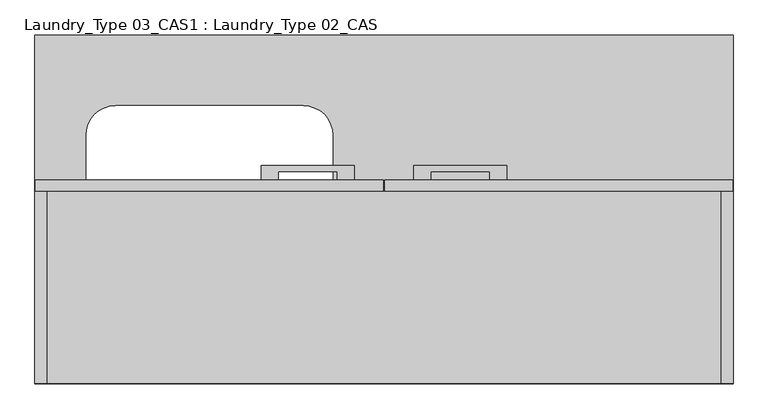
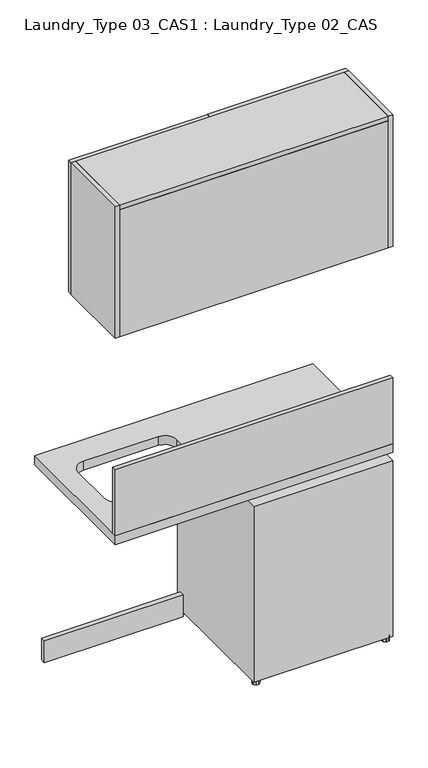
"""IFC4 building model written with IfcOpenShell, lengths in millimetres: furniture geometry, Laundry_Type 03_CAS1 : Laundry_Type 02_CAS."""

from ifc_helpers import new_model, si_unit, point, frame, frame_2d, origin, origin_with_axes, place, context, project, spatial, polyline, circle_curve, ellipse_curve, trimmed, segment, composite_curve, outline, extrude, source, transform, mapped, element, save
from ifc_brep_helpers import plane_surface, revolved_surface, advanced_brep


def laundry_type_03_cas1_laundry_type_02_cas_007b385b(model_context):
    return source(origin(), model_context, "Body", "SolidModel", [
        extrude(outline(composite_curve([segment(polyline([(1971.5385186, -26.7031653), (1973.2750278, -25.7005913)]), True, "CONTINUOUS"), segment(trimmed(circle_curve(frame_2d((1985.0, -20.085876)), 13.0), [point((1973.2750278, -25.7005913))], [point((1972.7389894, -24.40648))], False, "CARTESIAN"), True, "CONTINUOUS"), segment(polyline([(1972.7389894, -24.40648), (1970.802165, -24.9254506)]), True, "CONTINUOUS"), segment(trimmed(circle_curve(frame_2d((1985.0, -20.085876)), 15.0), [point((1970.802165, -24.9254506))], [point((1970.802165, -15.2463014))], False, "CARTESIAN"), True, "CONTINUOUS"), segment(polyline([(1970.802165, -15.2463014), (1972.7389894, -15.7652719)]), True, "CONTINUOUS"), segment(trimmed(circle_curve(frame_2d((1985.0, -20.085876)), 13.0), [point((1972.7389894, -15.7652719))], [point((1973.2750278, -14.4711607))], False, "CARTESIAN"), True, "CONTINUOUS"), segment(polyline([(1973.2750278, -14.4711607), (1971.5385186, -13.4685866)]), True, "CONTINUOUS"), segment(trimmed(circle_curve(frame_2d((1985.0, -20.085876)), 15.0), [point((1971.5385186, -13.4685866))], [point((1978.3827106, -6.6243946))], False, "CARTESIAN"), True, "CONTINUOUS"), segment(polyline([(1978.3827106, -6.6243946), (1979.3852847, -8.3609038)]), True, "CONTINUOUS"), segment(trimmed(circle_curve(frame_2d((1985.0, -20.085876)), 13.0), [point((1979.3852847, -8.3609038))], [point((1980.6793959, -7.8248654))], False, "CARTESIAN"), True, "CONTINUOUS"), segment(polyline([(1980.6793959, -7.8248654), (1980.1604254, -5.888041)]), True, "CONTINUOUS"), segment(trimmed(circle_curve(frame_2d((1985.0, -20.085876)), 15.0), [point((1980.1604254, -5.888041))], [point((1989.8395746, -5.888041))], False, "CARTESIAN"), True, "CONTINUOUS"), segment(polyline([(1989.8395746, -5.888041), (1989.3206041, -7.8248654)]), True, "CONTINUOUS"), segment(trimmed(circle_curve(frame_2d((1985.0, -20.085876)), 13.0), [point((1989.3206041, -7.8248654))], [point((1990.6147153, -8.3609038))], False, "CARTESIAN"), True, "CONTINUOUS"), segment(polyline([(1990.6147153, -8.3609038), (1991.6172894, -6.6243946)]), True, "CONTINUOUS"), segment(trimmed(circle_curve(frame_2d((1985.0, -20.085876)), 15.0), [point((1991.6172894, -6.6243946))], [point((1998.4614814, -13.4685866))], False, "CARTESIAN"), True, "CONTINUOUS"), segment(polyline([(1998.4614814, -13.4685866), (1996.7249722, -14.4711607)]), True, "CONTINUOUS"), segment(trimmed(circle_curve(frame_2d((1985.0, -20.085876)), 13.0), [point((1996.7249722, -14.4711607))], [point((1997.2610106, -15.7652719))], False, "CARTESIAN"), True, "CONTINUOUS"), segment(polyline([(1997.2610106, -15.7652719), (1999.197835, -15.2463014)]), True, "CONTINUOUS"), segment(trimmed(circle_curve(frame_2d((1985.0, -20.085876)), 15.0), [point((1999.197835, -15.2463014))], [point((1999.197835, -24.9254506))], False, "CARTESIAN"), True, "CONTINUOUS"), segment(polyline([(1999.197835, -24.9254506), (1997.2610106, -24.40648)]), True, "CONTINUOUS"), segment(trimmed(circle_curve(frame_2d((1985.0, -20.085876)), 13.0), [point((1997.2610106, -24.40648))], [point((1996.7249722, -25.7005913))], False, "CARTESIAN"), True, "CONTINUOUS"), segment(polyline([(1996.7249722, -25.7005913), (1998.4614814, -26.7031653)]), True, "CONTINUOUS"), segment(trimmed(circle_curve(frame_2d((1985.0, -20.085876)), 15.0), [point((1998.4614814, -26.7031653))], [point((1991.6172894, -33.5473574))], False, "CARTESIAN"), True, "CONTINUOUS"), segment(polyline([(1991.6172894, -33.5473574), (1990.6147153, -31.8108481)]), True, "CONTINUOUS"), segment(trimmed(circle_curve(frame_2d((1985.0, -20.085876)), 13.0), [point((1990.6147153, -31.8108481))], [point((1989.3206041, -32.3468865))], False, "CARTESIAN"), True, "CONTINUOUS"), segment(polyline([(1989.3206041, -32.3468865), (1989.8395746, -34.2837109)]), True, "CONTINUOUS"), segment(trimmed(circle_curve(frame_2d((1985.0, -20.085876)), 15.0), [point((1989.8395746, -34.2837109))], [point((1980.1604254, -34.2837109))], False, "CARTESIAN"), True, "CONTINUOUS"), segment(polyline([(1980.1604254, -34.2837109), (1980.6793959, -32.3468865)]), True, "CONTINUOUS"), segment(trimmed(circle_curve(frame_2d((1985.0, -20.085876)), 13.0), [point((1980.6793959, -32.3468865))], [point((1979.3852847, -31.8108481))], False, "CARTESIAN"), True, "CONTINUOUS"), segment(polyline([(1979.3852847, -31.8108481), (1978.3827106, -33.5473574)]), True, "CONTINUOUS"), segment(trimmed(circle_curve(frame_2d((1985.0, -20.085876)), 15.0), [point((1978.3827106, -33.5473574))], [point((1971.5385186, -26.7031653))], False, "CARTESIAN"), True, "CONTINUOUS")], self_intersect=False)), origin_with_axes(), (0.0, 0.0, 1.0), 20.0),
        extrude(outline(composite_curve([segment(polyline([(2531.5385186, -26.7031653), (2533.2750278, -25.7005913)]), True, "CONTINUOUS"), segment(trimmed(circle_curve(frame_2d((2545.0, -20.085876)), 13.0), [point((2533.2750278, -25.7005913))], [point((2532.7389894, -24.40648))], False, "CARTESIAN"), True, "CONTINUOUS"), segment(polyline([(2532.7389894, -24.40648), (2530.802165, -24.9254506)]), True, "CONTINUOUS"), segment(trimmed(circle_curve(frame_2d((2545.0, -20.085876)), 15.0), [point((2530.802165, -24.9254506))], [point((2530.802165, -15.2463014))], False, "CARTESIAN"), True, "CONTINUOUS"), segment(polyline([(2530.802165, -15.2463014), (2532.7389894, -15.7652719)]), True, "CONTINUOUS"), segment(trimmed(circle_curve(frame_2d((2545.0, -20.085876)), 13.0), [point((2532.7389894, -15.7652719))], [point((2533.2750278, -14.4711607))], False, "CARTESIAN"), True, "CONTINUOUS"), segment(polyline([(2533.2750278, -14.4711607), (2531.5385186, -13.4685866)]), True, "CONTINUOUS"), segment(trimmed(circle_curve(frame_2d((2545.0, -20.085876)), 15.0), [point((2531.5385186, -13.4685866))], [point((2538.3827106, -6.6243946))], False, "CARTESIAN"), True, "CONTINUOUS"), segment(polyline([(2538.3827106, -6.6243946), (2539.3852847, -8.3609038)]), True, "CONTINUOUS"), segment(trimmed(circle_curve(frame_2d((2545.0, -20.085876)), 13.0), [point((2539.3852847, -8.3609038))], [point((2540.6793959, -7.8248654))], False, "CARTESIAN"), True, "CONTINUOUS"), segment(polyline([(2540.6793959, -7.8248654), (2540.1604254, -5.888041)]), True, "CONTINUOUS"), segment(trimmed(circle_curve(frame_2d((2545.0, -20.085876)), 15.0), [point((2540.1604254, -5.888041))], [point((2549.8395746, -5.888041))], False, "CARTESIAN"), True, "CONTINUOUS"), segment(polyline([(2549.8395746, -5.888041), (2549.3206041, -7.8248654)]), True, "CONTINUOUS"), segment(trimmed(circle_curve(frame_2d((2545.0, -20.085876)), 13.0), [point((2549.3206041, -7.8248654))], [point((2550.6147153, -8.3609038))], False, "CARTESIAN"), True, "CONTINUOUS"), segment(polyline([(2550.6147153, -8.3609038), (2551.6172894, -6.6243946)]), True, "CONTINUOUS"), segment(trimmed(circle_curve(frame_2d((2545.0, -20.085876)), 15.0), [point((2551.6172894, -6.6243946))], [point((2558.4614814, -13.4685866))], False, "CARTESIAN"), True, "CONTINUOUS"), segment(polyline([(2558.4614814, -13.4685866), (2556.7249722, -14.4711607)]), True, "CONTINUOUS"), segment(trimmed(circle_curve(frame_2d((2545.0, -20.085876)), 13.0), [point((2556.7249722, -14.4711607))], [point((2557.2610106, -15.7652719))], False, "CARTESIAN"), True, "CONTINUOUS"), segment(polyline([(2557.2610106, -15.7652719), (2559.197835, -15.2463014)]), True, "CONTINUOUS"), segment(trimmed(circle_curve(frame_2d((2545.0, -20.085876)), 15.0), [point((2559.197835, -15.2463014))], [point((2559.197835, -24.9254506))], False, "CARTESIAN"), True, "CONTINUOUS"), segment(polyline([(2559.197835, -24.9254506), (2557.2610106, -24.40648)]), True, "CONTINUOUS"), segment(trimmed(circle_curve(frame_2d((2545.0, -20.085876)), 13.0), [point((2557.2610106, -24.40648))], [point((2556.7249722, -25.7005913))], False, "CARTESIAN"), True, "CONTINUOUS"), segment(polyline([(2556.7249722, -25.7005913), (2558.4614814, -26.7031653)]), True, "CONTINUOUS"), segment(trimmed(circle_curve(frame_2d((2545.0, -20.085876)), 15.0), [point((2558.4614814, -26.7031653))], [point((2551.6172894, -33.5473574))], False, "CARTESIAN"), True, "CONTINUOUS"), segment(polyline([(2551.6172894, -33.5473574), (2550.6147153, -31.8108481)]), True, "CONTINUOUS"), segment(trimmed(circle_curve(frame_2d((2545.0, -20.085876)), 13.0), [point((2550.6147153, -31.8108481))], [point((2549.3206041, -32.3468865))], False, "CARTESIAN"), True, "CONTINUOUS"), segment(polyline([(2549.3206041, -32.3468865), (2549.8395746, -34.2837109)]), True, "CONTINUOUS"), segment(trimmed(circle_curve(frame_2d((2545.0, -20.085876)), 15.0), [point((2549.8395746, -34.2837109))], [point((2540.1604254, -34.2837109))], False, "CARTESIAN"), True, "CONTINUOUS"), segment(polyline([(2540.1604254, -34.2837109), (2540.6793959, -32.3468865)]), True, "CONTINUOUS"), segment(trimmed(circle_curve(frame_2d((2545.0, -20.085876)), 13.0), [point((2540.6793959, -32.3468865))], [point((2539.3852847, -31.8108481))], False, "CARTESIAN"), True, "CONTINUOUS"), segment(polyline([(2539.3852847, -31.8108481), (2538.3827106, -33.5473574)]), True, "CONTINUOUS"), segment(trimmed(circle_curve(frame_2d((2545.0, -20.085876)), 15.0), [point((2538.3827106, -33.5473574))], [point((2531.5385186, -26.7031653))], False, "CARTESIAN"), True, "CONTINUOUS")], self_intersect=False)), origin_with_axes(), (0.0, 0.0, 1.0), 20.0),
        extrude(outline(composite_curve([segment(polyline([(2531.5385186, -556.7031653), (2533.2750278, -555.7005913)]), True, "CONTINUOUS"), segment(trimmed(circle_curve(frame_2d((2545.0, -550.085876)), 13.0), [point((2533.2750278, -555.7005913))], [point((2532.7389894, -554.40648))], False, "CARTESIAN"), True, "CONTINUOUS"), segment(polyline([(2532.7389894, -554.40648), (2530.802165, -554.9254506)]), True, "CONTINUOUS"), segment(trimmed(circle_curve(frame_2d((2545.0, -550.085876)), 15.0), [point((2530.802165, -554.9254506))], [point((2530.802165, -545.2463014))], False, "CARTESIAN"), True, "CONTINUOUS"), segment(polyline([(2530.802165, -545.2463014), (2532.7389894, -545.7652719)]), True, "CONTINUOUS"), segment(trimmed(circle_curve(frame_2d((2545.0, -550.085876)), 13.0), [point((2532.7389894, -545.7652719))], [point((2533.2750278, -544.4711607))], False, "CARTESIAN"), True, "CONTINUOUS"), segment(polyline([(2533.2750278, -544.4711607), (2531.5385186, -543.4685866)]), True, "CONTINUOUS"), segment(trimmed(circle_curve(frame_2d((2545.0, -550.085876)), 15.0), [point((2531.5385186, -543.4685866))], [point((2538.3827106, -536.6243946))], False, "CARTESIAN"), True, "CONTINUOUS"), segment(polyline([(2538.3827106, -536.6243946), (2539.3852847, -538.3609038)]), True, "CONTINUOUS"), segment(trimmed(circle_curve(frame_2d((2545.0, -550.085876)), 13.0), [point((2539.3852847, -538.3609038))], [point((2540.6793959, -537.8248654))], False, "CARTESIAN"), True, "CONTINUOUS"), segment(polyline([(2540.6793959, -537.8248654), (2540.1604254, -535.888041)]), True, "CONTINUOUS"), segment(trimmed(circle_curve(frame_2d((2545.0, -550.085876)), 15.0), [point((2540.1604254, -535.888041))], [point((2549.8395746, -535.888041))], False, "CARTESIAN"), True, "CONTINUOUS"), segment(polyline([(2549.8395746, -535.888041), (2549.3206041, -537.8248654)]), True, "CONTINUOUS"), segment(trimmed(circle_curve(frame_2d((2545.0, -550.085876)), 13.0), [point((2549.3206041, -537.8248654))], [point((2550.6147153, -538.3609038))], False, "CARTESIAN"), True, "CONTINUOUS"), segment(polyline([(2550.6147153, -538.3609038), (2551.6172894, -536.6243946)]), True, "CONTINUOUS"), segment(trimmed(circle_curve(frame_2d((2545.0, -550.085876)), 15.0), [point((2551.6172894, -536.6243946))], [point((2558.4614814, -543.4685866))], False, "CARTESIAN"), True, "CONTINUOUS"), segment(polyline([(2558.4614814, -543.4685866), (2556.7249722, -544.4711607)]), True, "CONTINUOUS"), segment(trimmed(circle_curve(frame_2d((2545.0, -550.085876)), 13.0), [point((2556.7249722, -544.4711607))], [point((2557.2610106, -545.7652719))], False, "CARTESIAN"), True, "CONTINUOUS"), segment(polyline([(2557.2610106, -545.7652719), (2559.197835, -545.2463014)]), True, "CONTINUOUS"), segment(trimmed(circle_curve(frame_2d((2545.0, -550.085876)), 15.0), [point((2559.197835, -545.2463014))], [point((2559.197835, -554.9254506))], False, "CARTESIAN"), True, "CONTINUOUS"), segment(polyline([(2559.197835, -554.9254506), (2557.2610106, -554.40648)]), True, "CONTINUOUS"), segment(trimmed(circle_curve(frame_2d((2545.0, -550.085876)), 13.0), [point((2557.2610106, -554.40648))], [point((2556.7249722, -555.7005913))], False, "CARTESIAN"), True, "CONTINUOUS"), segment(polyline([(2556.7249722, -555.7005913), (2558.4614814, -556.7031653)]), True, "CONTINUOUS"), segment(trimmed(circle_curve(frame_2d((2545.0, -550.085876)), 15.0), [point((2558.4614814, -556.7031653))], [point((2551.6172894, -563.5473574))], False, "CARTESIAN"), True, "CONTINUOUS"), segment(polyline([(2551.6172894, -563.5473574), (2550.6147153, -561.8108481)]), True, "CONTINUOUS"), segment(trimmed(circle_curve(frame_2d((2545.0, -550.085876)), 13.0), [point((2550.6147153, -561.8108481))], [point((2549.3206041, -562.3468865))], False, "CARTESIAN"), True, "CONTINUOUS"), segment(polyline([(2549.3206041, -562.3468865), (2549.8395746, -564.2837109)]), True, "CONTINUOUS"), segment(trimmed(circle_curve(frame_2d((2545.0, -550.085876)), 15.0), [point((2549.8395746, -564.2837109))], [point((2540.1604254, -564.2837109))], False, "CARTESIAN"), True, "CONTINUOUS"), segment(polyline([(2540.1604254, -564.2837109), (2540.6793959, -562.3468865)]), True, "CONTINUOUS"), segment(trimmed(circle_curve(frame_2d((2545.0, -550.085876)), 13.0), [point((2540.6793959, -562.3468865))], [point((2539.3852847, -561.8108481))], False, "CARTESIAN"), True, "CONTINUOUS"), segment(polyline([(2539.3852847, -561.8108481), (2538.3827106, -563.5473574)]), True, "CONTINUOUS"), segment(trimmed(circle_curve(frame_2d((2545.0, -550.085876)), 15.0), [point((2538.3827106, -563.5473574))], [point((2531.5385186, -556.7031653))], False, "CARTESIAN"), True, "CONTINUOUS")], self_intersect=False)), origin_with_axes(), (0.0, 0.0, 1.0), 20.0),
        extrude(outline(composite_curve([segment(polyline([(1971.5385186, -556.7031653), (1973.2750278, -555.7005913)]), True, "CONTINUOUS"), segment(trimmed(circle_curve(frame_2d((1985.0, -550.085876)), 13.0), [point((1973.2750278, -555.7005913))], [point((1972.7389894, -554.40648))], False, "CARTESIAN"), True, "CONTINUOUS"), segment(polyline([(1972.7389894, -554.40648), (1970.802165, -554.9254506)]), True, "CONTINUOUS"), segment(trimmed(circle_curve(frame_2d((1985.0, -550.085876)), 15.0), [point((1970.802165, -554.9254506))], [point((1970.802165, -545.2463014))], False, "CARTESIAN"), True, "CONTINUOUS"), segment(polyline([(1970.802165, -545.2463014), (1972.7389894, -545.7652719)]), True, "CONTINUOUS"), segment(trimmed(circle_curve(frame_2d((1985.0, -550.085876)), 13.0), [point((1972.7389894, -545.7652719))], [point((1973.2750278, -544.4711607))], False, "CARTESIAN"), True, "CONTINUOUS"), segment(polyline([(1973.2750278, -544.4711607), (1971.5385186, -543.4685866)]), True, "CONTINUOUS"), segment(trimmed(circle_curve(frame_2d((1985.0, -550.085876)), 15.0), [point((1971.5385186, -543.4685866))], [point((1978.3827106, -536.6243946))], False, "CARTESIAN"), True, "CONTINUOUS"), segment(polyline([(1978.3827106, -536.6243946), (1979.3852847, -538.3609038)]), True, "CONTINUOUS"), segment(trimmed(circle_curve(frame_2d((1985.0, -550.085876)), 13.0), [point((1979.3852847, -538.3609038))], [point((1980.6793959, -537.8248654))], False, "CARTESIAN"), True, "CONTINUOUS"), segment(polyline([(1980.6793959, -537.8248654), (1980.1604254, -535.888041)]), True, "CONTINUOUS"), segment(trimmed(circle_curve(frame_2d((1985.0, -550.085876)), 15.0), [point((1980.1604254, -535.888041))], [point((1989.8395746, -535.888041))], False, "CARTESIAN"), True, "CONTINUOUS"), segment(polyline([(1989.8395746, -535.888041), (1989.3206041, -537.8248654)]), True, "CONTINUOUS"), segment(trimmed(circle_curve(frame_2d((1985.0, -550.085876)), 13.0), [point((1989.3206041, -537.8248654))], [point((1990.6147153, -538.3609038))], False, "CARTESIAN"), True, "CONTINUOUS"), segment(polyline([(1990.6147153, -538.3609038), (1991.6172894, -536.6243946)]), True, "CONTINUOUS"), segment(trimmed(circle_curve(frame_2d((1985.0, -550.085876)), 15.0), [point((1991.6172894, -536.6243946))], [point((1998.4614814, -543.4685866))], False, "CARTESIAN"), True, "CONTINUOUS"), segment(polyline([(1998.4614814, -543.4685866), (1996.7249722, -544.4711607)]), True, "CONTINUOUS"), segment(trimmed(circle_curve(frame_2d((1985.0, -550.085876)), 13.0), [point((1996.7249722, -544.4711607))], [point((1997.2610106, -545.7652719))], False, "CARTESIAN"), True, "CONTINUOUS"), segment(polyline([(1997.2610106, -545.7652719), (1999.197835, -545.2463014)]), True, "CONTINUOUS"), segment(trimmed(circle_curve(frame_2d((1985.0, -550.085876)), 15.0), [point((1999.197835, -545.2463014))], [point((1999.197835, -554.9254506))], False, "CARTESIAN"), True, "CONTINUOUS"), segment(polyline([(1999.197835, -554.9254506), (1997.2610106, -554.40648)]), True, "CONTINUOUS"), segment(trimmed(circle_curve(frame_2d((1985.0, -550.085876)), 13.0), [point((1997.2610106, -554.40648))], [point((1996.7249722, -555.7005913))], False, "CARTESIAN"), True, "CONTINUOUS"), segment(polyline([(1996.7249722, -555.7005913), (1998.4614814, -556.7031653)]), True, "CONTINUOUS"), segment(trimmed(circle_curve(frame_2d((1985.0, -550.085876)), 15.0), [point((1998.4614814, -556.7031653))], [point((1991.6172894, -563.5473574))], False, "CARTESIAN"), True, "CONTINUOUS"), segment(polyline([(1991.6172894, -563.5473574), (1990.6147153, -561.8108481)]), True, "CONTINUOUS"), segment(trimmed(circle_curve(frame_2d((1985.0, -550.085876)), 13.0), [point((1990.6147153, -561.8108481))], [point((1989.3206041, -562.3468865))], False, "CARTESIAN"), True, "CONTINUOUS"), segment(polyline([(1989.3206041, -562.3468865), (1989.8395746, -564.2837109)]), True, "CONTINUOUS"), segment(trimmed(circle_curve(frame_2d((1985.0, -550.085876)), 15.0), [point((1989.8395746, -564.2837109))], [point((1980.1604254, -564.2837109))], False, "CARTESIAN"), True, "CONTINUOUS"), segment(polyline([(1980.1604254, -564.2837109), (1980.6793959, -562.3468865)]), True, "CONTINUOUS"), segment(trimmed(circle_curve(frame_2d((1985.0, -550.085876)), 13.0), [point((1980.6793959, -562.3468865))], [point((1979.3852847, -561.8108481))], False, "CARTESIAN"), True, "CONTINUOUS"), segment(polyline([(1979.3852847, -561.8108481), (1978.3827106, -563.5473574)]), True, "CONTINUOUS"), segment(trimmed(circle_curve(frame_2d((1985.0, -550.085876)), 15.0), [point((1978.3827106, -563.5473574))], [point((1971.5385186, -556.7031653))], False, "CARTESIAN"), True, "CONTINUOUS")], self_intersect=False)), origin_with_axes(), (0.0, 0.0, 1.0), 20.0),
        advanced_brep(
        [(2545.0, -550.085876, 790.0), (2545.0, -550.085876, 50.0), (1985.0, -550.085876, 50.0), (1985.0, -550.085876, 790.0), (1965.0, -570.085876, 820.0), (1965.0, -570.085876, 20.0), (2565.0, -570.085876, 20.0), (2565.0, -570.085876, 820.0), (1965.0, -20.085876, 820.0), (1965.0, -20.085876, 700.0), (1965.0, -2.027875, 700.0), (1965.0, -0.085876, 700.0), (1965.0, -0.085876, 20.0), (2565.0, -0.085876, 20.0), (2565.0, -0.085876, 700.0), (2565.0, -2.027875, 700.0), (2565.0, -20.085876, 700.0), (2565.0, -20.085876, 820.0), (2545.0, -20.085876, 700.0), (2545.0, -20.085876, 790.0), (1985.0, -20.085876, 790.0), (1985.0, -20.085876, 700.0), (2545.0, -20.085876, 50.0), (1985.0, -20.085876, 50.0), (2115.0, -20.085876, 425.0), (2415.0, -20.085876, 425.0), (2165.0, -0.085876, 700.0), (2467.5, -0.085876, 425.0), (2062.5, -0.085876, 425.0), (2415.0, -10.085876, 425.0), (2115.0, -10.085876, 425.0), (2065.0, -2.585876, 425.0), (2465.0, -2.585876, 425.0), (2065.0, -7.585876, 425.0), (2465.0, -7.585876, 425.0), (2067.5, -10.085876, 425.0), (2462.5, -10.085876, 425.0)],
        [
            (0, 1),
            (1, 2),
            (2, 3),
            (3, 0),
            (4, 5),
            (5, 6),
            (6, 7),
            (7, 4),
            (4, 8),
            (8, 9),
            (9, 10),
            (10, 11),
            (11, 12),
            (12, 5),
            (12, 13),
            (13, 6),
            (13, 14),
            (14, 15),
            (15, 16),
            (16, 17),
            (17, 7),
            (17, 8),
            (16, 18),
            (18, 19),
            (19, 20),
            (20, 21),
            (21, 9),
            (19, 0),
            (3, 20),
            (18, 22),
            (22, 1),
            (22, 23),
            (23, 2),
            (23, 21),
            (18, 21),
            (24, 25, circle_curve(frame((2265.0, -20.085876, 425.0), z_axis=(0.0, 1.0, 0.0), x_axis=(1.0, 0.0, 0.0)), 150.0)),
            (25, 24, circle_curve(frame((2265.0, -20.085876, 425.0), z_axis=(0.0, 1.0, 0.0), x_axis=(1.0, 0.0, 0.0)), 150.0)),
            (11, 26),
            (26, 14),
            (27, 28, circle_curve(frame((2265.0, -0.085876, 425.0), z_axis=(0.0, -1.0, 0.0), x_axis=(-1.0, 0.0, 0.0)), 202.5)),
            (28, 27, circle_curve(frame((2265.0, -0.085876, 425.0), z_axis=(0.0, -1.0, 0.0), x_axis=(1.0, 0.0, 0.0)), 202.5)),
            (25, 29),
            (29, 30, circle_curve(frame((2265.0, -10.085876, 425.0), z_axis=(0.0, 1.0, 0.0), x_axis=(1.0, 0.0, 0.0)), 150.0)),
            (30, 24),
            (30, 29, circle_curve(frame((2265.0, -10.085876, 425.0), z_axis=(0.0, 1.0, 0.0), x_axis=(1.0, 0.0, 0.0)), 150.0)),
            (31, 32, circle_curve(frame((2265.0, -2.585876, 425.0), z_axis=(0.0, -1.0, 0.0), x_axis=(1.0, 0.0, 0.0)), 200.0)),
            (32, 27, circle_curve(frame((2467.5, -2.585876, 425.0), z_axis=(0.0, 0.0, -1.0), x_axis=(-1.0, 0.0, 0.0)), 2.5)),
            (28, 31, circle_curve(frame((2062.5, -2.585876, 425.0), z_axis=(0.0, 0.0, -1.0), x_axis=(1.0, 0.0, 0.0)), 2.5)),
            (31, 33),
            (33, 34, circle_curve(frame((2265.0, -7.585876, 425.0), z_axis=(0.0, -1.0, 0.0), x_axis=(1.0, 0.0, 0.0)), 200.0)),
            (34, 32),
            (33, 35, circle_curve(frame((2067.5, -7.585876, 425.0), z_axis=(0.0, 0.0, 1.0), x_axis=(1.0, 0.0, 0.0)), 2.5)),
            (35, 36, circle_curve(frame((2265.0, -10.085876, 425.0), z_axis=(0.0, -1.0, 0.0), x_axis=(1.0, 0.0, 0.0)), 197.5)),
            (36, 34, circle_curve(frame((2462.5, -7.585876, 425.0), z_axis=(0.0, 0.0, 1.0), x_axis=(-1.0, 0.0, 0.0)), 2.5)),
            (32, 31, circle_curve(frame((2265.0, -2.585876, 425.0), z_axis=(0.0, -1.0, 0.0), x_axis=(-1.0, 0.0, 0.0)), 200.0)),
            (34, 33, circle_curve(frame((2265.0, -7.585876, 425.0), z_axis=(0.0, -1.0, 0.0), x_axis=(-1.0, 0.0, 0.0)), 200.0)),
            (36, 35, circle_curve(frame((2265.0, -10.085876, 425.0), z_axis=(0.0, -1.0, 0.0), x_axis=(-1.0, 0.0, 0.0)), 197.5)),
        ],
        [
            plane_surface(frame((1965.0, -550.085876, 820.0), z_axis=(0.0, 1.0, 0.0), x_axis=(0.0, 0.0, -1.0))),
            plane_surface(frame((1965.0, -570.085876, 820.0), z_axis=(0.0, -1.0, 0.0), x_axis=(0.0, 0.0, 1.0))),
            plane_surface(frame((1965.0, -550.085876, 820.0), z_axis=(-1.0, 0.0, 0.0), x_axis=(0.0, -1.0, 0.0))),
            plane_surface(frame((1965.0, -550.085876, 20.0), z_axis=(0.0, 0.0, -1.0), x_axis=(0.0, -1.0, 0.0))),
            plane_surface(frame((2565.0, -550.085876, 20.0), z_axis=(1.0, 0.0, 0.0), x_axis=(0.0, -1.0, 0.0))),
            plane_surface(frame((2565.0, -550.085876, 820.0), z_axis=(0.0, 0.0, 1.0), x_axis=(0.0, -1.0, 0.0))),
            plane_surface(frame((1965.0, -20.085876, 820.0), z_axis=(0.0, 1.0, 0.0), x_axis=(-1.0, 0.0, 0.0))),
            plane_surface(frame((1985.0, -20.085876, 790.0), z_axis=(0.0, 0.0, -1.0), x_axis=(0.0, -1.0, 0.0))),
            plane_surface(frame((2545.0, -20.085876, 790.0), z_axis=(-1.0, 0.0, 0.0), x_axis=(0.0, -1.0, 0.0))),
            plane_surface(frame((2545.0, -20.085876, 50.0), z_axis=(0.0, 0.0, 1.0), x_axis=(0.0, -1.0, 0.0))),
            plane_surface(frame((1985.0, -20.085876, 50.0), z_axis=(1.0, 0.0, 0.0), x_axis=(0.0, -1.0, 0.0))),
            plane_surface(frame((2565.0, -20.085876, 700.0), z_axis=(0.0, -1.0, 0.0), x_axis=(1.0, 0.0, 0.0))),
            plane_surface(frame((2565.0, -0.085876, 700.0), z_axis=(0.0, 1.0, 0.0), x_axis=(-1.0, 0.0, 0.0))),
            plane_surface(frame((1965.0, -20.085876, 700.0), z_axis=(0.0, 0.0, 1.0), x_axis=(0.0, 1.0, 0.0))),
            revolved_surface(polyline([(2415.0, -10.085876, 425.0), (2415.0, -20.085876, 425.0)]), (2265.0, -20.085876, 425.0), (0.0, 1.0, 0.0)),
            revolved_surface(trimmed(ellipse_curve(frame((2467.5, -2.585876, 425.0), z_axis=(0.0, 0.0, -1.0), x_axis=(-1.0, 0.0, 0.0)), 2.5, 2.5), [point((2465.0, -2.585876, 425.0))], [point((2467.5, -0.085876, 425.0))], True, "CARTESIAN"), (2265.0, -0.085876, 425.0), (0.0, -1.0, 0.0)),
            revolved_surface(polyline([(2465.0, -7.585876, 425.0), (2465.0, -2.585876, 425.0)]), (2265.0, -0.085876, 425.0), (0.0, -1.0, 0.0)),
            revolved_surface(trimmed(ellipse_curve(frame((2462.5, -7.585876, 425.0), z_axis=(0.0, 0.0, 1.0), x_axis=(-1.0, 0.0, 0.0)), 2.5, 2.5), [point((2462.5, -10.085876, 425.0))], [point((2465.0, -7.585876, 425.0))], True, "CARTESIAN"), (2265.0, -0.085876, 425.0), (0.0, -1.0, 0.0)),
            revolved_surface(trimmed(ellipse_curve(frame((2062.5, -2.585876, 425.0), z_axis=(0.0, 0.0, 1.0), x_axis=(1.0, 0.0, 0.0)), 2.5, 2.5), [point((2065.0, -2.585876, 425.0))], [point((2062.5, -0.085876, 425.0))], True, "CARTESIAN"), (2265.0, -0.085876, 425.0), (0.0, -1.0, 0.0)),
            revolved_surface(polyline([(2065.0, -7.585876, 425.0), (2065.0, -2.585876, 425.0)]), (2265.0, -0.085876, 425.0), (0.0, -1.0, 0.0)),
            revolved_surface(trimmed(ellipse_curve(frame((2067.5, -7.585876, 425.0), z_axis=(0.0, 0.0, -1.0), x_axis=(1.0, 0.0, 0.0)), 2.5, 2.5), [point((2067.5, -10.085876, 425.0))], [point((2065.0, -7.585876, 425.0))], True, "CARTESIAN"), (2265.0, -0.085876, 425.0), (0.0, -1.0, 0.0)),
            plane_surface(frame((2265.0, -10.085876, 425.0), z_axis=(0.0, 1.0, 0.0), x_axis=(-1.0, 0.0, 0.0))),
        ],
        [
            (0, [[1, 2, 3, 4]]),
            (1, [[5, 6, 7, 8]]),
            (2, [[9, 10, 11, 12, 13, 14, -5]]),
            (3, [[-14, 15, 16, -6]]),
            (4, [[-16, 17, 18, 19, 20, 21, -7]]),
            (5, [[-21, 22, -9, -8]]),
            (6, [[-20, 23, 24, 25, 26, 27, -10, -22]]),
            (7, [[28, -4, 29, -25]]),
            (8, [[-24, 30, 31, -1, -28]]),
            (9, [[32, 33, -2, -31]]),
            (10, [[-3, -33, 34, -26, -29]]),
            (11, [[-34, -32, -30, 35], [36, 37]]),
            (12, [[38, 39, -17, -15, -13], [40, 41]]),
            (13, [[-23, -19, -18, -39, -38, -12, -11, -27, -35]]),
            (14, [[42, 43, 44, -37]]),
            (14, [[-44, 45, -42, -36]]),
            (15, [[46, 47, -41, 48]]),
            (16, [[49, 50, 51, -46]]),
            (17, [[52, 53, 54, -50]]),
            (18, [[-40, -47, 55, -48]]),
            (19, [[-55, -51, 56, -49]]),
            (20, [[-56, -54, 57, -52]]),
            (21, [[-57, -53], [-45, -43]]),
        ],
    ),
        extrude(outline(polyline([(1914.0, -196.960876), (1914.0, -221.960876), (1885.0, -221.960876), (1885.0, -206.960876), (1783.0, -206.960876), (1783.0, -221.960876), (1754.0, -221.960876), (1754.0, -196.960876), (1914.0, -196.960876)])), frame((0.0, 0.0, 1842.5), z_axis=(0.0, 0.0, 1.0), x_axis=(1.0, 0.0, 0.0)), (0.0, 0.0, 1.0), 15.0),
        extrude(outline(polyline([(1366.0, -221.960876), (1964.0, -221.960876), (1964.0, -241.960876), (1366.0, -241.960876), (1366.0, -221.960876)])), frame((0.0, 0.0, 1800.0), z_axis=(0.0, 0.0, 1.0), x_axis=(1.0, 0.0, 0.0)), (0.0, 0.0, 1.0), 599.0),
        extrude(outline(polyline([(2016.0, -196.960876), (2176.0, -196.960876), (2176.0, -221.960876), (2147.0, -221.960876), (2147.0, -206.960876), (2045.0, -206.960876), (2045.0, -221.960876), (2016.0, -221.960876), (2016.0, -196.960876)])), frame((0.0, 0.0, 1842.5), z_axis=(0.0, 0.0, 1.0), x_axis=(1.0, 0.0, 0.0)), (0.0, 0.0, 1.0), 15.0),
        extrude(outline(polyline([(2564.0, -221.960876), (2564.0, -241.960876), (1966.0, -241.960876), (1966.0, -221.960876), (2564.0, -221.960876)])), frame((0.0, 0.0, 1800.0), z_axis=(0.0, 0.0, 1.0), x_axis=(1.0, 0.0, 0.0)), (0.0, 0.0, 1.0), 599.0),
        extrude(outline(polyline([(2545.0, -571.960876), (2545.0, -241.960876), (2565.0, -241.960876), (2565.0, -571.960876), (2545.0, -571.960876)])), frame((0.0, 0.0, 1800.0), z_axis=(0.0, 0.0, 1.0), x_axis=(1.0, 0.0, 0.0)), (0.0, 0.0, 1.0), 600.0),
        extrude(outline(polyline([(1365.0, -571.960876), (1365.0, -241.960876), (1385.0, -241.960876), (1385.0, -571.960876), (1365.0, -571.960876)])), frame((0.0, 0.0, 1800.0), z_axis=(0.0, 0.0, 1.0), x_axis=(1.0, 0.0, 0.0)), (0.0, 0.0, 1.0), 600.0),
        extrude(outline(polyline([(2545.0, -551.960876), (2545.0, -571.960876), (1385.0, -571.960876), (1385.0, -551.960876), (2545.0, -551.960876)])), frame((0.0, 0.0, 1800.0), z_axis=(0.0, 0.0, 1.0), x_axis=(1.0, 0.0, 0.0)), (0.0, 0.0, 1.0), 580.0),
        extrude(outline(polyline([(2545.0, -551.960876), (1385.0, -551.960876), (1385.0, -241.960876), (2545.0, -241.960876), (2545.0, -551.960876)])), frame((0.0, 0.0, 1800.0), z_axis=(0.0, 0.0, 1.0), x_axis=(1.0, 0.0, 0.0)), (0.0, 0.0, 1.0), 20.0),
        extrude(outline(polyline([(2545.0, -571.960876), (1385.0, -571.960876), (1385.0, -241.960876), (2545.0, -241.960876), (2545.0, -571.960876)])), frame((0.0, 0.0, 2380.0), z_axis=(0.0, 0.0, 1.0), x_axis=(1.0, 0.0, 0.0)), (0.0, 0.0, 1.0), 20.0),
        extrude(outline(polyline([(2565.0, -551.960876), (2565.0, -571.960876), (1365.0, -571.960876), (1365.0, -551.960876), (2565.0, -551.960876)])), frame((0.0, 0.0, 900.0), z_axis=(0.0, 0.0, 1.0), x_axis=(1.0, 0.0, 0.0)), (0.0, 0.0, 1.0), 300.0),
        extrude(outline(polyline([(1965.0, -21.960876), (1965.0, -41.960876), (1365.0, -41.960876), (1365.0, -21.960876), (1965.0, -21.960876)])), origin_with_axes(), (0.0, 0.0, 1.0), 100.0),
        extrude(outline(polyline([(2565.0, -571.960876), (1365.0, -571.960876), (1365.0, 28.039124), (2565.0, 28.039124), (2565.0, -571.960876)]), holes=[composite_curve([segment(polyline([(1503.9, -390.5092896), (1826.1, -390.5092896)]), True, "CONTINUOUS"), segment(trimmed(circle_curve(frame_2d((1826.1, -339.7092896)), 50.8), [point((1826.1, -390.5092896))], [point((1876.9, -339.7092896))], True, "CARTESIAN"), True, "CONTINUOUS"), segment(polyline([(1876.9, -339.7092896), (1876.9, -144.3382068)]), True, "CONTINUOUS"), segment(trimmed(circle_curve(frame_2d((1826.1, -144.3382068)), 50.8), [point((1876.9, -144.3382068))], [point((1826.1, -93.5382068))], True, "CARTESIAN"), True, "CONTINUOUS"), segment(polyline([(1826.1, -93.5382068), (1503.9, -93.5382068)]), True, "CONTINUOUS"), segment(trimmed(circle_curve(frame_2d((1503.9, -144.3382068)), 50.8), [point((1503.9, -93.5382068))], [point((1453.1, -144.3382068))], True, "CARTESIAN"), True, "CONTINUOUS"), segment(polyline([(1453.1, -144.3382068), (1453.1, -339.7092896)]), True, "CONTINUOUS"), segment(trimmed(circle_curve(frame_2d((1503.9, -339.7092896)), 50.8), [point((1453.1, -339.7092896))], [point((1503.9, -390.5092896))], True, "CARTESIAN"), True, "CONTINUOUS")], self_intersect=False)]), frame((0.0, 0.0, 860.0), z_axis=(0.0, 0.0, 1.0), x_axis=(1.0, 0.0, 0.0)), (0.0, 0.0, 1.0), 40.0),
    ])


if __name__ == "__main__":
    model = new_model("IFC4")
    model_context = context("Model", 3, world=origin())
    ifc_project = project(units=[si_unit("LENGTHUNIT", "METRE", prefix="MILLI")], contexts=[model_context])
    site = spatial("IfcSite", under=ifc_project)
    building = spatial("IfcBuilding", under=site)
    placement = place(None, origin())
    laundry_type_03_cas1_laundry_type_02_cas_shape = laundry_type_03_cas1_laundry_type_02_cas_007b385b(model_context)
    element("IfcFurniture", 1, ObjectType="Laundry_Type 03_CAS1 : Laundry_Type 02_CAS", at=placement, inside=building, context=model_context, shape_type="MappedRepresentation", body=[
        mapped(laundry_type_03_cas1_laundry_type_02_cas_shape, transform((0.0, 0.0, 0.0), x_axis=(1.0, 0.0, 0.0), y_axis=(0.0, 1.0, 0.0), z_axis=(0.0, 0.0, 1.0))),
    ])
    save(model, "model.ifc")
